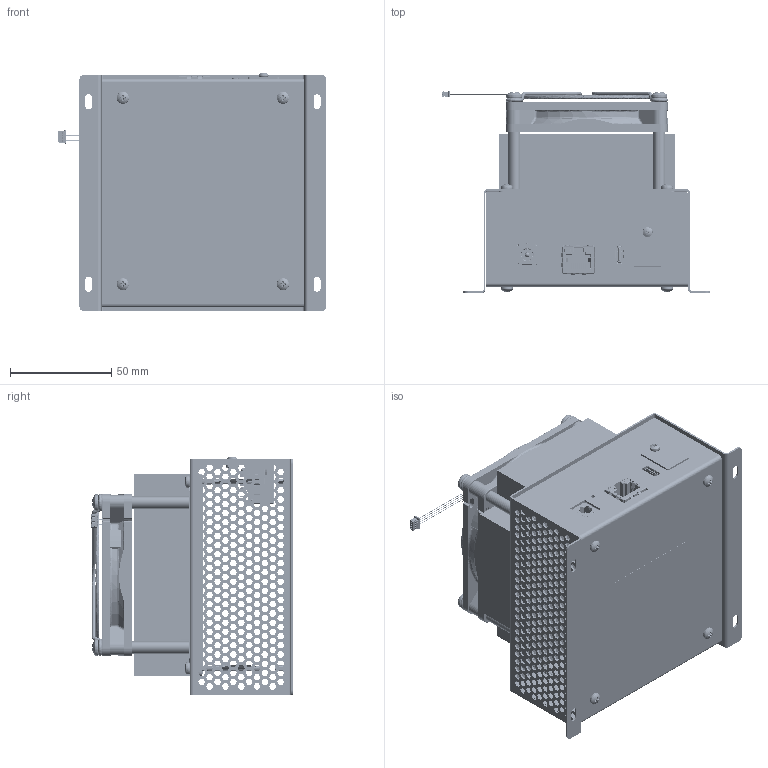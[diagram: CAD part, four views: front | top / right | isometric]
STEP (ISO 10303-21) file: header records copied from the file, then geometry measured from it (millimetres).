
FILE_DESCRIPTION (( 'STEP AP214' ), '1' );
FILE_NAME ('CORE01-XX_Website_part.STEP', '2025-11-27T18:33:08', ( '' ), ( '' ), 'SwSTEP 2.0', 'SolidWorks 2023', '' );
FILE_SCHEMA (( 'AUTOMOTIVE_DESIGN' ));
Length unit declared in the file: millimetre
Products named in the file (1): CORE01-XX_Website_part
Bounding box: 132.51 x 99.57 x 117.81 mm (x, y, z)
Volume: 341034 mm3; surface area: 177353.5 mm2
Topology: 63 solids, 100 shells, 14021 faces, 39760 edges, 26032 vertices
Faces by surface type: plane 7663, cylinder 5425, bspline 619, cone 205, torus 71, sphere 38
Full cylindrical faces by diameter (mm): 0.3 x8, 1.8 x12, 2 x1, 2.9 x1, 3 x2, 3.09 x4, 3.3 x4, 3.4 x12, 4.2 x4, 4.22 x1, 4.5 x4, 4.9 x8, 5.9 x4, 6 x4, 8 x4, 34 x1, 76.3 x1
Entity records: 546100 total; most frequent: CARTESIAN_POINT 184872, ORIENTED_EDGE 79024, DIRECTION 70823, EDGE_CURVE 39512, VERTEX_POINT 25963, VECTOR 25947, LINE 25947, AXIS2_PLACEMENT_3D 22438
